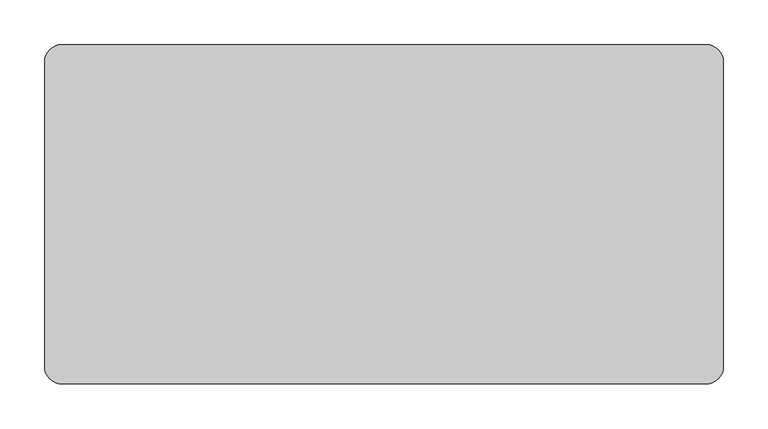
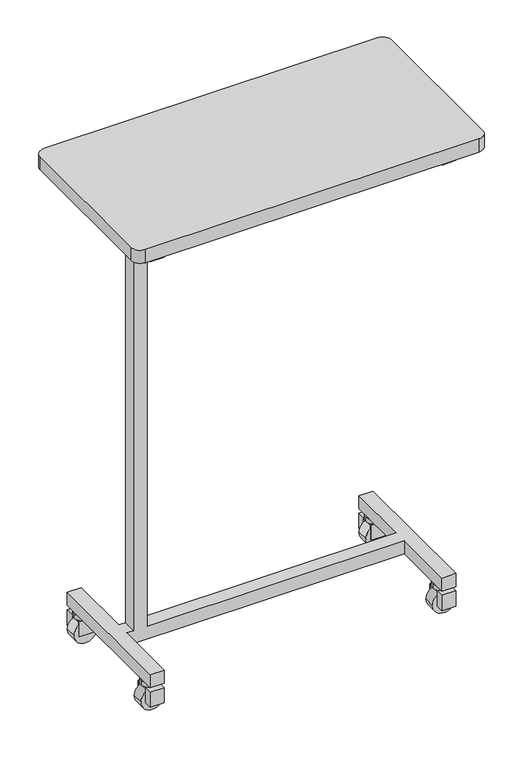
"""IFC4 building model written with IfcOpenShell, lengths in millimetres: proxy geometry, BIMHealth-Table_Overbed-LOD2A-v1 : BIMHealth-Table_Overbed-LOD2A-v1."""

from ifc_helpers import new_model, si_unit, point, frame, frame_2d, origin, place, context, project, spatial, polyline, circle_curve, trimmed, segment, composite_curve, outline, extrude, faceted_brep, source, transform, mapped, element, save


def generic_models_7cb6bfe7(model_context):
    return source(origin(), model_context, "Body", "SolidModel", [
        faceted_brep([(50.0, 35.0, 1070.0), (80.0, 35.0, 1070.0), (80.0, 175.5, 1070.0), (682.0, 175.5, 1070.0), (682.0, 35.0, 1070.0), (712.0, 35.0, 1070.0), (712.0, 346.0, 1070.0), (682.0, 346.0, 1070.0), (682.0, 205.5, 1070.0), (80.0, 205.5, 1070.0), (80.0, 346.0, 1070.0), (50.0, 346.0, 1070.0), (50.0, 35.0, 1040.0), (50.0, 346.0, 1040.0), (80.0, 346.0, 1040.0), (80.0, 205.5, 1040.0), (95.0, 205.5, 1040.0), (95.0, 175.5, 1040.0), (80.0, 175.5, 1040.0), (80.0, 35.0, 1040.0), (682.0, 175.5, 1040.0), (125.0, 175.5, 1040.0), (125.0, 205.5, 1040.0), (682.0, 205.5, 1040.0), (682.0, 346.0, 1040.0), (712.0, 346.0, 1040.0), (712.0, 35.0, 1040.0), (682.0, 35.0, 1040.0), (125.0, 205.5, 95.0), (682.0, 205.5, 95.0), (682.0, 205.5, 65.0), (80.0, 205.5, 65.0), (80.0, 205.5, 95.0), (95.0, 205.5, 95.0), (95.0, 175.5, 95.0), (80.0, 175.5, 95.0), (80.0, 175.5, 65.0), (682.0, 175.5, 65.0), (682.0, 175.5, 95.0), (125.0, 175.5, 95.0), (682.0, 35.0, 95.0), (712.0, 35.0, 95.0), (712.0, 346.0, 95.0), (682.0, 346.0, 95.0), (50.0, 35.0, 95.0), (80.0, 35.0, 95.0), (80.0, 346.0, 95.0), (50.0, 346.0, 95.0), (50.0, 35.0, 65.0), (50.0, 346.0, 65.0), (80.0, 346.0, 65.0), (682.0, 346.0, 65.0), (712.0, 346.0, 65.0), (712.0, 35.0, 65.0), (682.0, 35.0, 65.0), (80.0, 35.0, 65.0)], [[[0, 1, 2, 3, 4, 5, 6, 7, 8, 9, 10, 11]], [[12, 13, 14, 15, 16, 17, 18, 19]], [[20, 21, 22, 23, 24, 25, 26, 27]], [[11, 13, 12, 0]], [[10, 14, 13, 11]], [[9, 15, 14, 10]], [[8, 23, 22, 28, 29, 30, 31, 32, 33, 16, 15, 9]], [[7, 24, 23, 8]], [[6, 25, 24, 7]], [[5, 26, 25, 6]], [[4, 27, 26, 5]], [[3, 20, 27, 4]], [[2, 18, 17, 34, 35, 36, 37, 38, 39, 21, 20, 3]], [[1, 19, 18, 2]], [[0, 12, 19, 1]], [[22, 21, 39, 28]], [[33, 34, 17, 16]], [[29, 28, 39, 38, 40, 41, 42, 43]], [[44, 45, 35, 34, 33, 32, 46, 47]], [[48, 49, 50, 31, 30, 51, 52, 53, 54, 37, 36, 55]], [[47, 49, 48, 44]], [[46, 50, 49, 47]], [[32, 31, 50, 46]], [[43, 51, 30, 29]], [[42, 52, 51, 43]], [[41, 53, 52, 42]], [[40, 54, 53, 41]], [[38, 37, 54, 40]], [[45, 55, 36, 35]], [[44, 48, 55, 45]]]),
        extrude(outline(composite_curve([segment(trimmed(circle_curve(frame_2d((697.0, 316.0)), 17.5), [point((714.5, 316.0))], [point((679.5, 316.0))], False, "CARTESIAN"), True, "CONTINUOUS"), segment(trimmed(circle_curve(frame_2d((697.0, 316.0)), 17.5), [point((679.5, 316.0))], [point((714.5, 316.0))], False, "CARTESIAN"), True, "CONTINUOUS")], self_intersect=False)), frame((0.0, 0.0, 55.0), z_axis=(0.0, 0.0, 1.0), x_axis=(1.0, 0.0, 0.0)), (0.0, 0.0, 1.0), 10.0),
        extrude(outline(composite_curve([segment(trimmed(circle_curve(frame_2d((25.0, 697.0)), 25.0), [point((25.0, 722.0))], [point((25.0, 672.0))], False, "CARTESIAN"), True, "CONTINUOUS"), segment(trimmed(circle_curve(frame_2d((25.0, 697.0)), 25.0), [point((25.0, 672.0))], [point((25.0, 722.0))], False, "CARTESIAN"), True, "CONTINUOUS")], self_intersect=False)), frame((0.0, 303.5, 0.0), z_axis=(0.0, 1.0, 0.0), x_axis=(0.0, 0.0, 1.0)), (0.0, 0.0, 1.0), 25.0),
        extrude(outline(polyline([(346.0, 20.0), (328.5, 20.0), (328.5, 52.5), (303.5, 52.5), (303.5, 20.0), (301.0, 20.0), (301.0, 55.0), (346.0, 55.0), (346.0, 20.0)])), frame((682.0, 0.0, 0.0), z_axis=(1.0, 0.0, 0.0), x_axis=(0.0, 1.0, 0.0)), (0.0, 0.0, 1.0), 30.0),
        extrude(outline(composite_curve([segment(trimmed(circle_curve(frame_2d((65.0, 316.0)), 17.5), [point((47.5, 316.0))], [point((82.5, 316.0))], False, "CARTESIAN"), True, "CONTINUOUS"), segment(trimmed(circle_curve(frame_2d((65.0, 316.0)), 17.5), [point((82.5, 316.0))], [point((47.5, 316.0))], False, "CARTESIAN"), True, "CONTINUOUS")], self_intersect=False)), frame((0.0, 0.0, 55.0), z_axis=(0.0, 0.0, 1.0), x_axis=(1.0, 0.0, 0.0)), (0.0, 0.0, 1.0), 10.0),
        extrude(outline(composite_curve([segment(trimmed(circle_curve(frame_2d((25.0, 65.0)), 25.0), [point((25.0, 40.0))], [point((25.0, 90.0))], False, "CARTESIAN"), True, "CONTINUOUS"), segment(trimmed(circle_curve(frame_2d((25.0, 65.0)), 25.0), [point((25.0, 90.0))], [point((25.0, 40.0))], False, "CARTESIAN"), True, "CONTINUOUS")], self_intersect=False)), frame((0.0, 303.5, 0.0), z_axis=(0.0, 1.0, 0.0), x_axis=(0.0, 0.0, 1.0)), (0.0, 0.0, 1.0), 25.0),
        extrude(outline(polyline([(346.0, 20.0), (328.5, 20.0), (328.5, 52.5), (303.5, 52.5), (303.5, 20.0), (301.0, 20.0), (301.0, 55.0), (346.0, 55.0), (346.0, 20.0)])), frame((50.0, 0.0, 0.0), z_axis=(1.0, 0.0, 0.0), x_axis=(0.0, 1.0, 0.0)), (0.0, 0.0, 1.0), 30.0),
        extrude(outline(composite_curve([segment(trimmed(circle_curve(frame_2d((697.0, 65.0)), 17.5), [point((714.5, 65.0))], [point((679.5, 65.0))], False, "CARTESIAN"), True, "CONTINUOUS"), segment(trimmed(circle_curve(frame_2d((697.0, 65.0)), 17.5), [point((679.5, 65.0))], [point((714.5, 65.0))], False, "CARTESIAN"), True, "CONTINUOUS")], self_intersect=False)), frame((0.0, 0.0, 55.0), z_axis=(0.0, 0.0, 1.0), x_axis=(1.0, 0.0, 0.0)), (0.0, 0.0, 1.0), 10.0),
        extrude(outline(composite_curve([segment(trimmed(circle_curve(frame_2d((25.0, 697.0)), 25.0), [point((25.0, 722.0))], [point((25.0, 672.0))], False, "CARTESIAN"), True, "CONTINUOUS"), segment(trimmed(circle_curve(frame_2d((25.0, 697.0)), 25.0), [point((25.0, 672.0))], [point((25.0, 722.0))], False, "CARTESIAN"), True, "CONTINUOUS")], self_intersect=False)), frame((0.0, 52.5, 0.0), z_axis=(0.0, 1.0, 0.0), x_axis=(0.0, 0.0, 1.0)), (0.0, 0.0, 1.0), 25.0),
        extrude(outline(polyline([(35.0, 20.0), (35.0, 55.0), (80.0, 55.0), (80.0, 20.0), (77.5, 20.0), (77.5, 52.5), (52.5, 52.5), (52.5, 20.0), (35.0, 20.0)])), frame((682.0, 0.0, 0.0), z_axis=(1.0, 0.0, 0.0), x_axis=(0.0, 1.0, 0.0)), (0.0, 0.0, 1.0), 30.0),
        extrude(outline(composite_curve([segment(trimmed(circle_curve(frame_2d((65.0, 65.0)), 17.5), [point((47.5, 65.0))], [point((82.5, 65.0))], False, "CARTESIAN"), True, "CONTINUOUS"), segment(trimmed(circle_curve(frame_2d((65.0, 65.0)), 17.5), [point((82.5, 65.0))], [point((47.5, 65.0))], False, "CARTESIAN"), True, "CONTINUOUS")], self_intersect=False)), frame((0.0, 0.0, 55.0), z_axis=(0.0, 0.0, 1.0), x_axis=(1.0, 0.0, 0.0)), (0.0, 0.0, 1.0), 10.0),
        extrude(outline(composite_curve([segment(trimmed(circle_curve(frame_2d((25.0, 65.0)), 25.0), [point((25.0, 40.0))], [point((25.0, 90.0))], False, "CARTESIAN"), True, "CONTINUOUS"), segment(trimmed(circle_curve(frame_2d((25.0, 65.0)), 25.0), [point((25.0, 90.0))], [point((25.0, 40.0))], False, "CARTESIAN"), True, "CONTINUOUS")], self_intersect=False)), frame((0.0, 52.5, 0.0), z_axis=(0.0, 1.0, 0.0), x_axis=(0.0, 0.0, 1.0)), (0.0, 0.0, 1.0), 25.0),
        extrude(outline(polyline([(35.0, 20.0), (35.0, 55.0), (80.0, 55.0), (80.0, 20.0), (77.5, 20.0), (77.5, 52.5), (52.5, 52.5), (52.5, 20.0), (35.0, 20.0)])), frame((50.0, 0.0, 0.0), z_axis=(1.0, 0.0, 0.0), x_axis=(0.0, 1.0, 0.0)), (0.0, 0.0, 1.0), 30.0),
        extrude(outline(composite_curve([segment(polyline([(742.0, 0.0), (20.0, 0.0)]), True, "CONTINUOUS"), segment(trimmed(circle_curve(frame_2d((20.0, 20.0)), 20.0), [point((20.0, 0.0))], [point((0.0, 20.0))], False, "CARTESIAN"), True, "CONTINUOUS"), segment(polyline([(0.0, 20.0), (0.0, 361.0)]), True, "CONTINUOUS"), segment(trimmed(circle_curve(frame_2d((20.0, 361.0)), 20.0), [point((0.0, 361.0))], [point((20.0, 381.0))], False, "CARTESIAN"), True, "CONTINUOUS"), segment(polyline([(20.0, 381.0), (742.0, 381.0)]), True, "CONTINUOUS"), segment(trimmed(circle_curve(frame_2d((742.0, 361.0)), 20.0), [point((742.0, 381.0))], [point((762.0, 361.0))], False, "CARTESIAN"), True, "CONTINUOUS"), segment(polyline([(762.0, 361.0), (762.0, 20.0)]), True, "CONTINUOUS"), segment(trimmed(circle_curve(frame_2d((742.0, 20.0)), 20.0), [point((762.0, 20.0))], [point((742.0, 0.0))], False, "CARTESIAN"), True, "CONTINUOUS")], self_intersect=False)), frame((0.0, 0.0, 1070.0), z_axis=(0.0, 0.0, 1.0), x_axis=(1.0, 0.0, 0.0)), (0.0, 0.0, 1.0), 30.0),
    ])


if __name__ == "__main__":
    model = new_model("IFC4")
    model_context = context("Model", 3, world=origin())
    ifc_project = project(units=[si_unit("LENGTHUNIT", "METRE", prefix="MILLI")], contexts=[model_context])
    site = spatial("IfcSite", under=ifc_project)
    building = spatial("IfcBuilding", under=site)
    placement = place(None, origin())
    generic_models_shape = generic_models_7cb6bfe7(model_context)
    element("IfcBuildingElementProxy", 1, Name="BIMHealth-Table_Overbed-LOD2A-v1 : BIMHealth-Table_Overbed-LOD2A-v1", ObjectType="BIMHealth-Table_Overbed-LOD2A-v1 : BIMHealth-Table_Overbed-LOD2A-v1", at=placement, inside=building, context=model_context, shape_type="MappedRepresentation", body=[
        mapped(generic_models_shape, transform((0.0, 0.0, 0.0), x_axis=(1.0, 0.0, 0.0), y_axis=(0.0, 1.0, 0.0), z_axis=(0.0, 0.0, 1.0))),
    ])
    save(model, "model.ifc")
